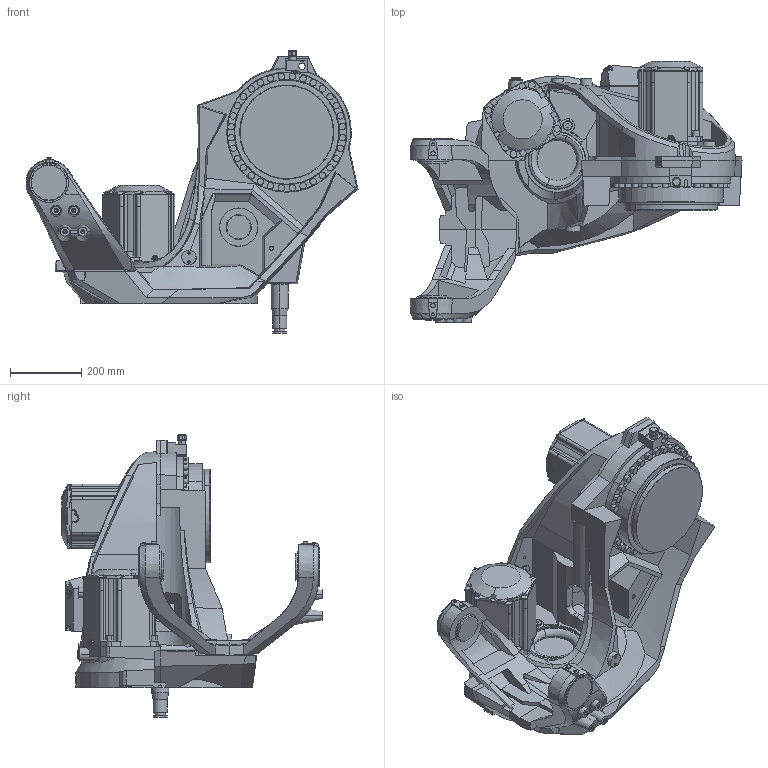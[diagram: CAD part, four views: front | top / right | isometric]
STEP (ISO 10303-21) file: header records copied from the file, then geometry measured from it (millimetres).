
FILE_DESCRIPTION (( 'STEP AP214' ), '1' );
FILE_NAME ('IRB6710_210kg-265_OC_00_LINK01_CAD.STEP', '2023-03-27T18:13:47', ( '' ), ( '' ), 'SwSTEP 2.0', 'SolidWorks 2020', '' );
FILE_SCHEMA (( 'AUTOMOTIVE_DESIGN' ));
Length unit declared in the file: millimetre
Products named in the file (1): IRB6710_210kg-265_OC_00_LINK01_CAD
Bounding box: 933.43 x 733.5 x 795.5 mm (x, y, z)
Volume: 64267590.9 mm3; surface area: 2736082.4 mm2
Topology: 1 solids, 2 shells, 1913 faces, 4948 edges, 3167 vertices
Faces by surface type: plane 825, cylinder 407, cone 351, bspline 170, torus 140, sphere 20
Entity records: 91293 total; most frequent: CARTESIAN_POINT 45428, ORIENTED_EDGE 9856, DIRECTION 8294, EDGE_CURVE 4928, VERTEX_POINT 3167, AXIS2_PLACEMENT_3D 3060, VECTOR 2174, LINE 2174
